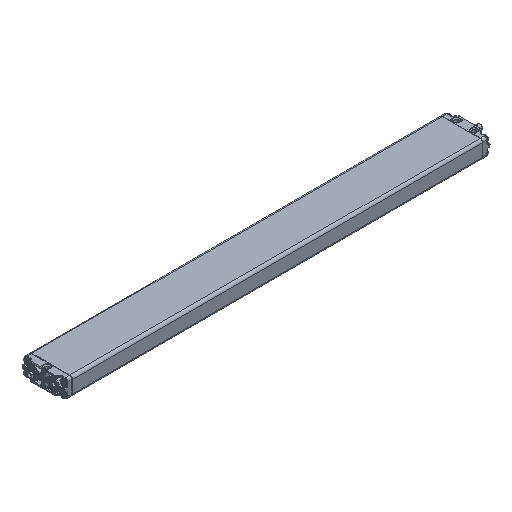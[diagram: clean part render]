
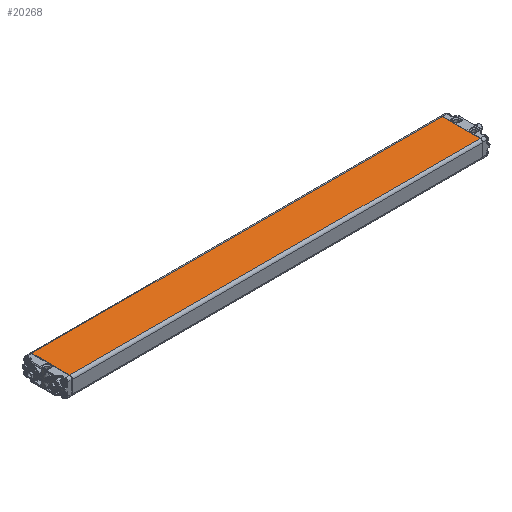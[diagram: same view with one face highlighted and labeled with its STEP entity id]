
A CAD part, isometric view. The second image highlights one B-rep face of the part: STEP entity #20268.
In plain terms, the highlighted planar face has unit normal (0, 0, 1).
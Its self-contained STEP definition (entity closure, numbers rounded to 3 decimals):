
#2488=LINE('',#48858,#3323);
#2489=LINE('',#48861,#3324);
#2490=LINE('',#48863,#3325);
#2491=LINE('',#48865,#3326);
#3323=VECTOR('',#25596,1000.);
#3324=VECTOR('',#25597,1000.);
#3325=VECTOR('',#25598,1000.);
#3326=VECTOR('',#25599,1000.);
#7464=ORIENTED_EDGE('',*,*,#11484,.T.);
#7465=ORIENTED_EDGE('',*,*,#11485,.T.);
#7466=ORIENTED_EDGE('',*,*,#11486,.T.);
#7467=ORIENTED_EDGE('',*,*,#11487,.T.);
#11484=EDGE_CURVE('',#13686,#13687,#2488,.T.);
#11485=EDGE_CURVE('',#13687,#13688,#2489,.F.);
#11486=EDGE_CURVE('',#13688,#13689,#2490,.F.);
#11487=EDGE_CURVE('',#13689,#13686,#2491,.T.);
#13686=VERTEX_POINT('',#48859);
#13687=VERTEX_POINT('',#48860);
#13688=VERTEX_POINT('',#48862);
#13689=VERTEX_POINT('',#48864);
#16058=EDGE_LOOP('',(#7464,#7465,#7466,#7467));
#17517=FACE_BOUND('',#16058,.T.);
#18320=PLANE('',#21960);
#20268=ADVANCED_FACE('',(#17517),#18320,.T.);
#21960=AXIS2_PLACEMENT_3D('',#48857,#25594,#25595);
#25594=DIRECTION('',(0.,0.,1.));
#25595=DIRECTION('',(1.,0.,0.));
#25596=DIRECTION('',(0.,-1.,0.));
#25597=DIRECTION('',(-1.,0.,0.));
#25598=DIRECTION('',(0.,-1.,0.));
#25599=DIRECTION('',(-1.,0.,0.));
#48857=CARTESIAN_POINT('',(42.5,812.5,17.5));
#48858=CARTESIAN_POINT('',(-37.5,812.5,17.5));
#48859=CARTESIAN_POINT('',(-37.5,812.,17.5));
#48860=CARTESIAN_POINT('',(-37.5,0.5,17.5));
#48861=CARTESIAN_POINT('',(37.5,0.5,17.5));
#48862=CARTESIAN_POINT('',(37.5,0.5,17.5));
#48863=CARTESIAN_POINT('',(37.5,812.5,17.5));
#48864=CARTESIAN_POINT('',(37.5,812.,17.5));
#48865=CARTESIAN_POINT('',(42.5,812.,17.5));
